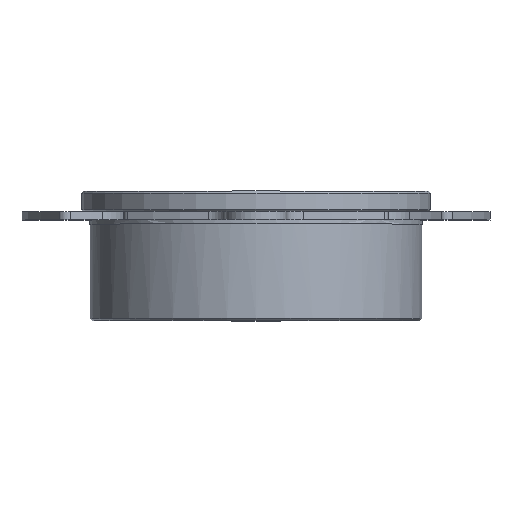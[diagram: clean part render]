
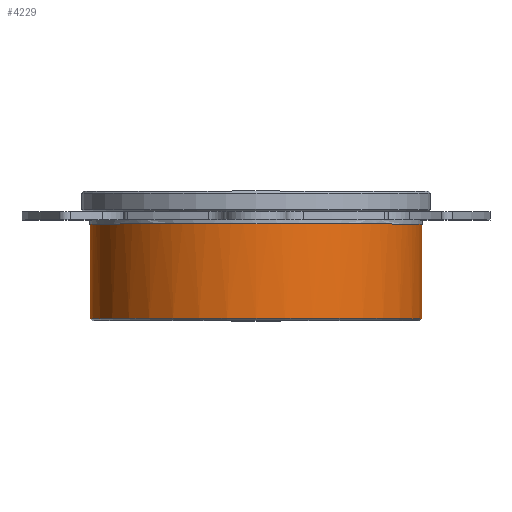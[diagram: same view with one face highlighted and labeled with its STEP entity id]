
A CAD part, top view. The second image highlights one B-rep face of the part: STEP entity #4229.
In plain terms, the highlighted cylindrical face has radius 40.4 mm (diameter 80.8 mm), a full revolution.
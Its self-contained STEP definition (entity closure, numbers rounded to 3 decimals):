
#4186=CARTESIAN_POINT('',(0.,-8.,40.4));
#4187=VERTEX_POINT('',#4186);
#4188=CARTESIAN_POINT('',(0.,-8.,0.));
#4189=DIRECTION('',(0.0,-1.0,0.0));
#4190=DIRECTION('',(0.0,0.0,-1.0));
#4191=AXIS2_PLACEMENT_3D('',#4188,#4189,#4190);
#4192=CIRCLE('',#4191,40.4);
#4193=EDGE_CURVE('',#4187,#4187,#4192,.T.);
#4203=CARTESIAN_POINT('',(0.,-31.,40.4));
#4204=VERTEX_POINT('',#4203);
#4205=CARTESIAN_POINT('',(0.,-31.,0.));
#4206=DIRECTION('',(0.0,-1.0,0.0));
#4207=DIRECTION('',(0.0,0.0,-1.0));
#4208=AXIS2_PLACEMENT_3D('',#4205,#4206,#4207);
#4209=CIRCLE('',#4208,40.4);
#4210=EDGE_CURVE('',#4204,#4204,#4209,.T.);
#4218=CARTESIAN_POINT('',(0.0,-31.5,0.0));
#4219=DIRECTION('',(0.,1.0,0.));
#4220=DIRECTION('',(0.0,0.0,-1.0));
#4221=AXIS2_PLACEMENT_3D('',#4218,#4219,#4220);
#4222=CYLINDRICAL_SURFACE('',#4221,40.4);
#4223=ORIENTED_EDGE('',*,*,#4193,.T.);
#4224=EDGE_LOOP('',(#4223));
#4225=FACE_OUTER_BOUND('',#4224,.T.);
#4226=ORIENTED_EDGE('',*,*,#4210,.F.);
#4227=EDGE_LOOP('',(#4226));
#4228=FACE_BOUND('',#4227,.T.);
#4229=ADVANCED_FACE('',(#4225,#4228),#4222,.T.);
